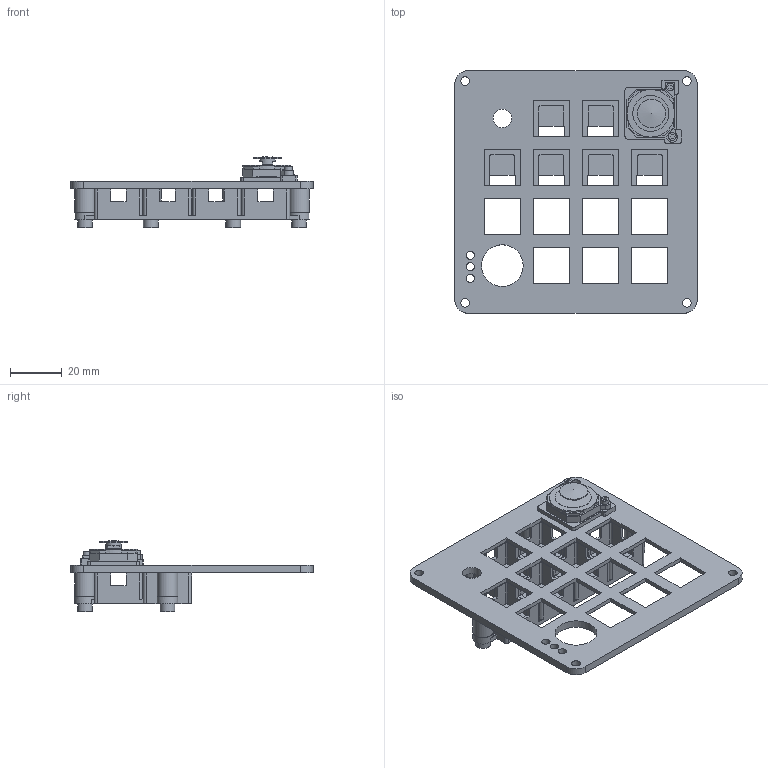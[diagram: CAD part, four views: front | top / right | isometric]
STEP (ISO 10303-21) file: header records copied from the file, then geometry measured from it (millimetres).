
FILE_DESCRIPTION(('Open CASCADE Model'),'2;1');
FILE_NAME('Open CASCADE Shape Model','2026-09-15T22:36:41',('Author'),( 'Open CASCADE'),'Open CASCADE STEP processor 7.9','Open CASCADE 7.9' ,'Unknown');
FILE_SCHEMA(('AUTOMOTIVE_DESIGN { 1 0 10303 214 1 1 1 1 }'));
Length unit declared in the file: millimetre
Products named in the file (17): MOUNTING_V5_PHYSICAL_FIT_PENDING; Upper_plate; Lower_light_tray; Removable_joystick_adapter; REFERENCE_joystick; M3x8_upward_screw_1; M3x4_heat_set_insert_1; M3x8_upward_screw_2; M3x4_heat_set_insert_2; M3x8_upward_screw_3; M3x4_heat_set_insert_3; M3x8_upward_screw_4; M3x4_heat_set_insert_4; M1_6x10_joystick_screw_A; M1_6_exposed_nut_A; M1_6x10_joystick_screw_B; M1_6_exposed_nut_B
Assembly tree (16 placements, depth 2):
  MOUNTING_V5_PHYSICAL_FIT_PENDING
    Upper_plate
    Lower_light_tray
    Removable_joystick_adapter
    REFERENCE_joystick
    M3x8_upward_screw_1
    M3x4_heat_set_insert_1
    M3x8_upward_screw_2
    M3x4_heat_set_insert_2
    M3x8_upward_screw_3
    M3x4_heat_set_insert_3
    M3x8_upward_screw_4
    M3x4_heat_set_insert_4
    M1_6x10_joystick_screw_A
    M1_6_exposed_nut_A
    M1_6x10_joystick_screw_B
    M1_6_exposed_nut_B
Bounding box: 94 x 94 x 27.6 mm (x, y, z)
Volume: 28165.1 mm3; surface area: 33729.6 mm2
Topology: 22 solids, 22 shells, 737 faces, 1941 edges, 1290 vertices
Faces by surface type: plane 552, cylinder 181, cone 3, bspline 1
Full cylindrical faces by diameter (mm): 1.6 x4, 2 x2, 2.4 x4, 3 x10, 3.2 x3, 3.4 x12, 3.6 x2, 3.9 x4, 4 x2, 4.2 x4, 5.7 x4, 6 x1, 7.2 x1, 8 x4, 11 x1, 14 x1, 16.2 x1, 18.5 x1
Entity records: 49040 total; most frequent: CARTESIAN_POINT 9052, DIRECTION 7490, LINE 4927, VECTOR 4927, ORIENTED_EDGE 3880, PCURVE 3880, DEFINITIONAL_REPRESENTATION 3880, EDGE_CURVE 1940
